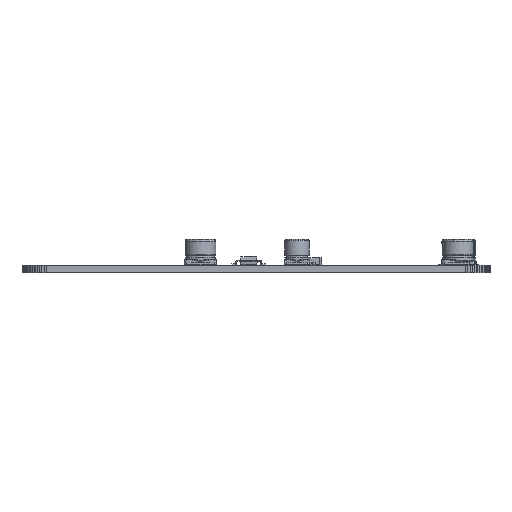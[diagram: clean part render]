
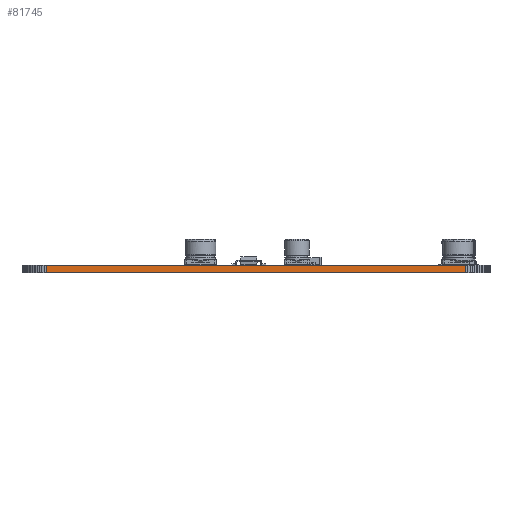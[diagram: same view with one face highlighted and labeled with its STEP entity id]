
A CAD part, front view. The second image highlights one B-rep face of the part: STEP entity #81745.
In plain terms, the highlighted planar face has unit normal (0, -1, 0).
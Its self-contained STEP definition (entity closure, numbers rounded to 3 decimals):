
#16052 = PLANE('',#16053);
#16053 = AXIS2_PLACEMENT_3D('',#16054,#16055,#16056);
#16054 = CARTESIAN_POINT('',(91.5,-105.,1.55));
#16055 = DIRECTION('',(-0.,-0.,-1.));
#16056 = DIRECTION('',(-1.,0.,0.));
#16106 = PLANE('',#16107);
#16107 = AXIS2_PLACEMENT_3D('',#16108,#16109,#16110);
#16108 = CARTESIAN_POINT('',(91.5,-105.,0.));
#16109 = DIRECTION('',(-0.,-0.,-1.));
#16110 = DIRECTION('',(-1.,0.,0.));
#17195 = VERTEX_POINT('',#17196);
#17196 = CARTESIAN_POINT('',(135.,-180.,0.));
#17210 = PLANE('',#17211);
#17211 = AXIS2_PLACEMENT_3D('',#17212,#17213,#17214);
#17212 = CARTESIAN_POINT('',(135.436,-179.981,0.));
#17213 = DIRECTION('',(0.044,-0.999,0.));
#17214 = DIRECTION('',(-0.999,-0.044,0.));
#17222 = EDGE_CURVE('',#17195,#17223,#17225,.T.);
#17223 = VERTEX_POINT('',#17224);
#17224 = CARTESIAN_POINT('',(48.,-180.,0.));
#17225 = SURFACE_CURVE('',#17226,(#17230,#17237),.PCURVE_S1.);
#17226 = LINE('',#17227,#17228);
#17227 = CARTESIAN_POINT('',(135.,-180.,0.));
#17228 = VECTOR('',#17229,1.);
#17229 = DIRECTION('',(-1.,0.,0.));
#17230 = PCURVE('',#16106,#17231);
#17231 = DEFINITIONAL_REPRESENTATION('',(#17232),#17236);
#17232 = LINE('',#17233,#17234);
#17233 = CARTESIAN_POINT('',(-43.5,-75.));
#17234 = VECTOR('',#17235,1.);
#17235 = DIRECTION('',(1.,0.));
#17236 = ( GEOMETRIC_REPRESENTATION_CONTEXT(2) 
PARAMETRIC_REPRESENTATION_CONTEXT() REPRESENTATION_CONTEXT('2D SPACE',''
  ) );
#17237 = PCURVE('',#17238,#17243);
#17238 = PLANE('',#17239);
#17239 = AXIS2_PLACEMENT_3D('',#17240,#17241,#17242);
#17240 = CARTESIAN_POINT('',(135.,-180.,0.));
#17241 = DIRECTION('',(0.,-1.,0.));
#17242 = DIRECTION('',(-1.,0.,0.));
#17243 = DEFINITIONAL_REPRESENTATION('',(#17244),#17248);
#17244 = LINE('',#17245,#17246);
#17245 = CARTESIAN_POINT('',(0.,-0.));
#17246 = VECTOR('',#17247,1.);
#17247 = DIRECTION('',(1.,0.));
#17248 = ( GEOMETRIC_REPRESENTATION_CONTEXT(2) 
PARAMETRIC_REPRESENTATION_CONTEXT() REPRESENTATION_CONTEXT('2D SPACE',''
  ) );
#17266 = PLANE('',#17267);
#17267 = AXIS2_PLACEMENT_3D('',#17268,#17269,#17270);
#17268 = CARTESIAN_POINT('',(48.,-180.,0.));
#17269 = DIRECTION('',(-0.044,-0.999,0.));
#17270 = DIRECTION('',(-0.999,0.044,0.));
#51869 = VERTEX_POINT('',#51870);
#51870 = CARTESIAN_POINT('',(135.,-180.,1.55));
#51891 = EDGE_CURVE('',#51869,#51892,#51894,.T.);
#51892 = VERTEX_POINT('',#51893);
#51893 = CARTESIAN_POINT('',(48.,-180.,1.55));
#51894 = SURFACE_CURVE('',#51895,(#51899,#51906),.PCURVE_S1.);
#51895 = LINE('',#51896,#51897);
#51896 = CARTESIAN_POINT('',(135.,-180.,1.55));
#51897 = VECTOR('',#51898,1.);
#51898 = DIRECTION('',(-1.,0.,0.));
#51899 = PCURVE('',#16052,#51900);
#51900 = DEFINITIONAL_REPRESENTATION('',(#51901),#51905);
#51901 = LINE('',#51902,#51903);
#51902 = CARTESIAN_POINT('',(-43.5,-75.));
#51903 = VECTOR('',#51904,1.);
#51904 = DIRECTION('',(1.,0.));
#51905 = ( GEOMETRIC_REPRESENTATION_CONTEXT(2) 
PARAMETRIC_REPRESENTATION_CONTEXT() REPRESENTATION_CONTEXT('2D SPACE',''
  ) );
#51906 = PCURVE('',#17238,#51907);
#51907 = DEFINITIONAL_REPRESENTATION('',(#51908),#51912);
#51908 = LINE('',#51909,#51910);
#51909 = CARTESIAN_POINT('',(0.,-1.55));
#51910 = VECTOR('',#51911,1.);
#51911 = DIRECTION('',(1.,0.));
#51912 = ( GEOMETRIC_REPRESENTATION_CONTEXT(2) 
PARAMETRIC_REPRESENTATION_CONTEXT() REPRESENTATION_CONTEXT('2D SPACE',''
  ) );
#81697 = EDGE_CURVE('',#17195,#51869,#81698,.T.);
#81698 = SURFACE_CURVE('',#81699,(#81703,#81710),.PCURVE_S1.);
#81699 = LINE('',#81700,#81701);
#81700 = CARTESIAN_POINT('',(135.,-180.,0.));
#81701 = VECTOR('',#81702,1.);
#81702 = DIRECTION('',(0.,0.,1.));
#81703 = PCURVE('',#17210,#81704);
#81704 = DEFINITIONAL_REPRESENTATION('',(#81705),#81709);
#81705 = LINE('',#81706,#81707);
#81706 = CARTESIAN_POINT('',(0.436,0.));
#81707 = VECTOR('',#81708,1.);
#81708 = DIRECTION('',(0.,-1.));
#81709 = ( GEOMETRIC_REPRESENTATION_CONTEXT(2) 
PARAMETRIC_REPRESENTATION_CONTEXT() REPRESENTATION_CONTEXT('2D SPACE',''
  ) );
#81710 = PCURVE('',#17238,#81711);
#81711 = DEFINITIONAL_REPRESENTATION('',(#81712),#81716);
#81712 = LINE('',#81713,#81714);
#81713 = CARTESIAN_POINT('',(0.,-0.));
#81714 = VECTOR('',#81715,1.);
#81715 = DIRECTION('',(0.,-1.));
#81716 = ( GEOMETRIC_REPRESENTATION_CONTEXT(2) 
PARAMETRIC_REPRESENTATION_CONTEXT() REPRESENTATION_CONTEXT('2D SPACE',''
  ) );
#81745 = ADVANCED_FACE('',(#81746),#17238,.T.);
#81746 = FACE_BOUND('',#81747,.T.);
#81747 = EDGE_LOOP('',(#81748,#81749,#81750,#81771));
#81748 = ORIENTED_EDGE('',*,*,#81697,.T.);
#81749 = ORIENTED_EDGE('',*,*,#51891,.T.);
#81750 = ORIENTED_EDGE('',*,*,#81751,.F.);
#81751 = EDGE_CURVE('',#17223,#51892,#81752,.T.);
#81752 = SURFACE_CURVE('',#81753,(#81757,#81764),.PCURVE_S1.);
#81753 = LINE('',#81754,#81755);
#81754 = CARTESIAN_POINT('',(48.,-180.,0.));
#81755 = VECTOR('',#81756,1.);
#81756 = DIRECTION('',(0.,0.,1.));
#81757 = PCURVE('',#17238,#81758);
#81758 = DEFINITIONAL_REPRESENTATION('',(#81759),#81763);
#81759 = LINE('',#81760,#81761);
#81760 = CARTESIAN_POINT('',(87.,0.));
#81761 = VECTOR('',#81762,1.);
#81762 = DIRECTION('',(0.,-1.));
#81763 = ( GEOMETRIC_REPRESENTATION_CONTEXT(2) 
PARAMETRIC_REPRESENTATION_CONTEXT() REPRESENTATION_CONTEXT('2D SPACE',''
  ) );
#81764 = PCURVE('',#17266,#81765);
#81765 = DEFINITIONAL_REPRESENTATION('',(#81766),#81770);
#81766 = LINE('',#81767,#81768);
#81767 = CARTESIAN_POINT('',(0.,0.));
#81768 = VECTOR('',#81769,1.);
#81769 = DIRECTION('',(0.,-1.));
#81770 = ( GEOMETRIC_REPRESENTATION_CONTEXT(2) 
PARAMETRIC_REPRESENTATION_CONTEXT() REPRESENTATION_CONTEXT('2D SPACE',''
  ) );
#81771 = ORIENTED_EDGE('',*,*,#17222,.F.);
